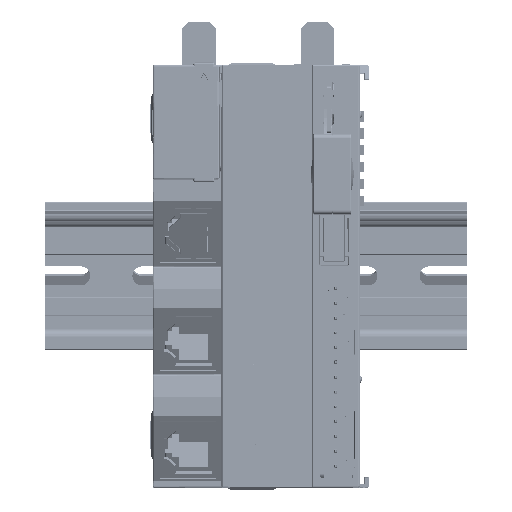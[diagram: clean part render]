
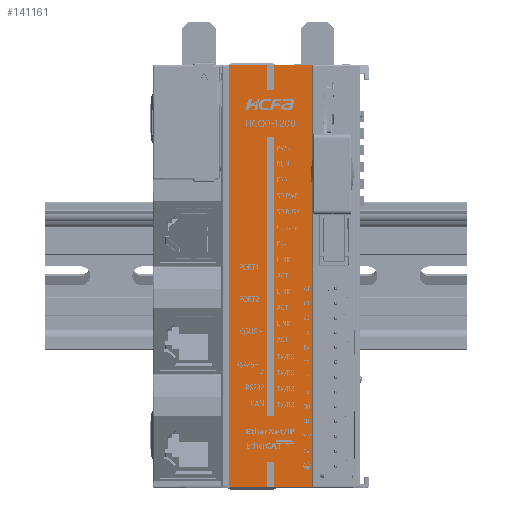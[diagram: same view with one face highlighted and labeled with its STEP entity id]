
A CAD part, top view. The second image highlights one B-rep face of the part: STEP entity #141161.
In plain terms, the highlighted planar face has unit normal (0, 0, 1).
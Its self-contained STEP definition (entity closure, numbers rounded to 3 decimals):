
#140720=DIRECTION('',(0.,-1.,0.));
#140721=VECTOR('',#140720,6.);
#140722=CARTESIAN_POINT('',(-3.3,49.8,65.2));
#140723=LINE('',#140722,#140721);
#140727=DIRECTION('',(0.,-1.,0.));
#140728=VECTOR('',#140727,100.);
#140729=CARTESIAN_POINT('',(5.65,49.8,65.2));
#140730=LINE('',#140729,#140728);
#140734=DIRECTION('',(0.,-1.,0.));
#140735=VECTOR('',#140734,6.);
#140736=CARTESIAN_POINT('',(-3.3,-44.2,65.2));
#140737=LINE('',#140736,#140735);
#140741=DIRECTION('',(0.,1.,0.));
#140742=VECTOR('',#140741,6.);
#140743=CARTESIAN_POINT('',(-5.1,-50.2,65.2));
#140744=LINE('',#140743,#140742);
#140748=DIRECTION('',(0.,-1.,0.));
#140749=VECTOR('',#140748,100.);
#140750=CARTESIAN_POINT('',(-14.05,49.8,65.2));
#140751=LINE('',#140750,#140749);
#140755=DIRECTION('',(0.,-1.,0.));
#140756=VECTOR('',#140755,6.);
#140757=CARTESIAN_POINT('',(-5.1,49.8,65.2));
#140758=LINE('',#140757,#140756);
#140762=DIRECTION('',(0.,-1.,0.));
#140763=VECTOR('',#140762,66.);
#140764=CARTESIAN_POINT('',(-3.3,32.8,65.2));
#140765=LINE('',#140764,#140763);
#140769=DIRECTION('',(0.,-1.,0.));
#140770=VECTOR('',#140769,66.);
#140771=CARTESIAN_POINT('',(-5.1,32.8,65.2));
#140772=LINE('',#140771,#140770);
#140783=DIRECTION('',(-1.,0.,0.));
#140784=VECTOR('',#140783,1.8);
#140785=CARTESIAN_POINT('',(-3.3,43.8,65.2));
#140786=LINE('',#140785,#140784);
#140881=DIRECTION('',(1.,0.,0.));
#140882=VECTOR('',#140881,1.8);
#140883=CARTESIAN_POINT('',(-5.1,-44.2,65.2));
#140884=LINE('',#140883,#140882);
#140902=DIRECTION('',(1.,0.,0.));
#140903=VECTOR('',#140902,8.95);
#140904=CARTESIAN_POINT('',(-3.3,-50.2,65.2));
#140905=LINE('',#140904,#140903);
#140916=DIRECTION('',(1.,0.,0.));
#140917=VECTOR('',#140916,8.95);
#140918=CARTESIAN_POINT('',(-14.05,-50.2,65.2));
#140919=LINE('',#140918,#140917);
#140944=DIRECTION('',(-1.,0.,0.));
#140945=VECTOR('',#140944,8.95);
#140946=CARTESIAN_POINT('',(5.65,49.8,65.2));
#140947=LINE('',#140946,#140945);
#140958=DIRECTION('',(-1.,0.,0.));
#140959=VECTOR('',#140958,8.95);
#140960=CARTESIAN_POINT('',(-5.1,49.8,65.2));
#140961=LINE('',#140960,#140959);
#141014=DIRECTION('',(1.,0.,0.));
#141015=VECTOR('',#141014,1.8);
#141016=CARTESIAN_POINT('',(-5.1,32.8,65.2));
#141017=LINE('',#141016,#141015);
#141035=DIRECTION('',(-1.,0.,0.));
#141036=VECTOR('',#141035,1.8);
#141037=CARTESIAN_POINT('',(-3.3,-33.2,65.2));
#141038=LINE('',#141037,#141036);
#141056=CARTESIAN_POINT('',(5.65,49.8,65.2));
#141057=CARTESIAN_POINT('',(5.65,-50.2,65.2));
#141058=VERTEX_POINT('',#141056);
#141059=VERTEX_POINT('',#141057);
#141064=CARTESIAN_POINT('',(-14.05,49.8,65.2));
#141065=CARTESIAN_POINT('',(-14.05,-50.2,65.2));
#141066=VERTEX_POINT('',#141064);
#141067=VERTEX_POINT('',#141065);
#141076=CARTESIAN_POINT('',(-5.1,-50.2,65.2));
#141077=CARTESIAN_POINT('',(-5.1,-44.2,65.2));
#141078=VERTEX_POINT('',#141076);
#141079=VERTEX_POINT('',#141077);
#141080=CARTESIAN_POINT('',(-5.1,32.8,65.2));
#141081=CARTESIAN_POINT('',(-5.1,-33.2,65.2));
#141082=VERTEX_POINT('',#141080);
#141083=VERTEX_POINT('',#141081);
#141084=CARTESIAN_POINT('',(-5.1,49.8,65.2));
#141085=CARTESIAN_POINT('',(-5.1,43.8,65.2));
#141086=VERTEX_POINT('',#141084);
#141087=VERTEX_POINT('',#141085);
#141108=CARTESIAN_POINT('',(-3.3,32.8,65.2));
#141109=VERTEX_POINT('',#141108);
#141110=CARTESIAN_POINT('',(-3.3,-33.2,65.2));
#141111=VERTEX_POINT('',#141110);
#141112=CARTESIAN_POINT('',(-3.3,-44.2,65.2));
#141113=VERTEX_POINT('',#141112);
#141114=CARTESIAN_POINT('',(-3.3,43.8,65.2));
#141115=VERTEX_POINT('',#141114);
#141116=CARTESIAN_POINT('',(-3.3,-50.2,65.2));
#141117=VERTEX_POINT('',#141116);
#141118=CARTESIAN_POINT('',(-3.3,49.8,65.2));
#141119=VERTEX_POINT('',#141118);
#141120=CARTESIAN_POINT('',(0.,0.,65.2));
#141121=DIRECTION('',(0.,0.,1.));
#141122=DIRECTION('',(1.,0.,0.));
#141123=AXIS2_PLACEMENT_3D('',#141120,#141121,#141122);
#141124=PLANE('',#141123);
#141126=ORIENTED_EDGE('',*,*,#141125,.F.);
#141128=ORIENTED_EDGE('',*,*,#141127,.F.);
#141130=ORIENTED_EDGE('',*,*,#141129,.F.);
#141132=ORIENTED_EDGE('',*,*,#141131,.T.);
#141134=ORIENTED_EDGE('',*,*,#141133,.F.);
#141136=ORIENTED_EDGE('',*,*,#141135,.F.);
#141138=ORIENTED_EDGE('',*,*,#141137,.F.);
#141140=ORIENTED_EDGE('',*,*,#141139,.F.);
#141142=ORIENTED_EDGE('',*,*,#141141,.F.);
#141144=ORIENTED_EDGE('',*,*,#141143,.F.);
#141146=ORIENTED_EDGE('',*,*,#141145,.F.);
#141148=ORIENTED_EDGE('',*,*,#141147,.T.);
#141149=EDGE_LOOP('',(#141126,#141128,#141130,#141132,#141134,#141136,#141138,
#141140,#141142,#141144,#141146,#141148));
#141150=FACE_OUTER_BOUND('',#141149,.F.);
#141152=ORIENTED_EDGE('',*,*,#141151,.F.);
#141154=ORIENTED_EDGE('',*,*,#141153,.F.);
#141156=ORIENTED_EDGE('',*,*,#141155,.F.);
#141158=ORIENTED_EDGE('',*,*,#141157,.T.);
#141159=EDGE_LOOP('',(#141152,#141154,#141156,#141158));
#141160=FACE_BOUND('',#141159,.F.);
#141125=EDGE_CURVE('',#141115,#141087,#140786,.T.);
#141127=EDGE_CURVE('',#141119,#141115,#140723,.T.);
#141129=EDGE_CURVE('',#141058,#141119,#140947,.T.);
#141131=EDGE_CURVE('',#141058,#141059,#140730,.T.);
#141133=EDGE_CURVE('',#141117,#141059,#140905,.T.);
#141135=EDGE_CURVE('',#141113,#141117,#140737,.T.);
#141137=EDGE_CURVE('',#141079,#141113,#140884,.T.);
#141139=EDGE_CURVE('',#141078,#141079,#140744,.T.);
#141141=EDGE_CURVE('',#141067,#141078,#140919,.T.);
#141143=EDGE_CURVE('',#141066,#141067,#140751,.T.);
#141145=EDGE_CURVE('',#141086,#141066,#140961,.T.);
#141147=EDGE_CURVE('',#141086,#141087,#140758,.T.);
#141151=EDGE_CURVE('',#141111,#141083,#141038,.T.);
#141153=EDGE_CURVE('',#141109,#141111,#140765,.T.);
#141155=EDGE_CURVE('',#141082,#141109,#141017,.T.);
#141157=EDGE_CURVE('',#141082,#141083,#140772,.T.);
#141161=ADVANCED_FACE('',(#141150,#141160),#141124,.T.);
